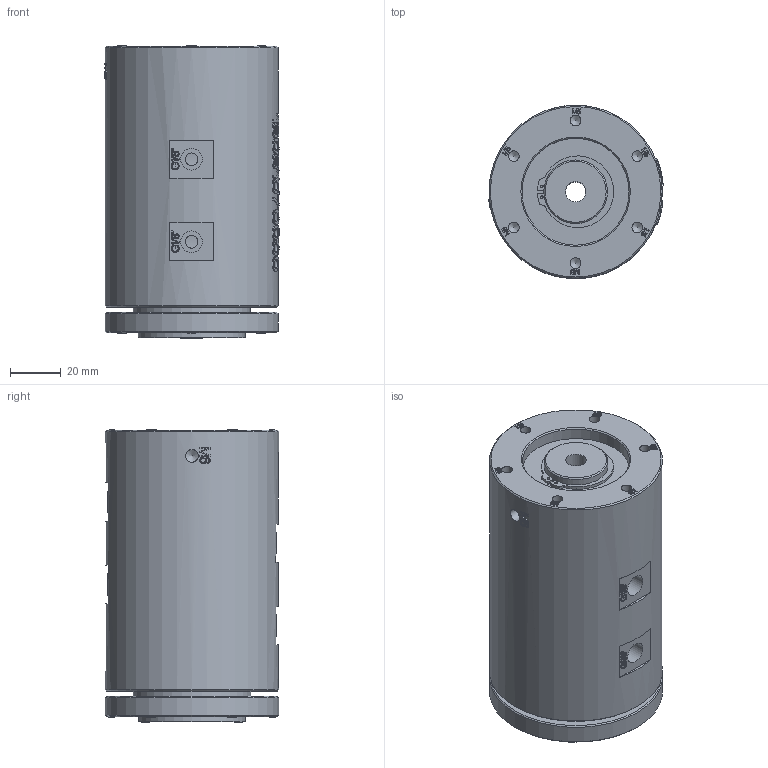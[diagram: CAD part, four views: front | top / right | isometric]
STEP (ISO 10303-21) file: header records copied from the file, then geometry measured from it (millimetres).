
FILE_DESCRIPTION(/* description */ (''),/* implementation_level */ '2;1');
FILE_NAME(/* name */ 'HY0401-3D模型.stp',/* time_stamp */ '2025-09-12T14:37:14+08:00',/* author */ (''),/* organization */ (''),/* preprocessor_version */ 'ST-DEVELOPER v16.7',/* originating_system */ 'SIEMENS PLM Software NX 12.0',/* authorisation */ '');
FILE_SCHEMA (('AUTOMOTIVE_DESIGN { 1 0 10303 214 3 1 1 1 }'));
Products named in the file (1): Admi2290F644gb6q
Bounding box: 68.46 x 68 x 114.9 mm (x, y, z)
Volume: 391014.8 mm3; surface area: 42960.1 mm2
Topology: 1 solids, 1 shells, 1763 faces, 4877 edges, 3254 vertices
Faces by surface type: extrusion 933, plane 659, bspline 88, cylinder 69, cone 14
Full cylindrical faces by diameter (mm): 1 x2, 4.2 x12, 5 x8, 8 x1, 8.5 x6, 23.9 x1, 25 x1, 42 x2, 46 x1, 68 x2
Entity records: 67958 total; most frequent: CARTESIAN_POINT 30270, ORIENTED_EDGE 9586, EDGE_CURVE 4793, B_SPLINE_CURVE_WITH_KNOTS 4481, DIRECTION 3933, VERTEX_POINT 3229, EDGE_LOOP 1966, VECTOR 1901
